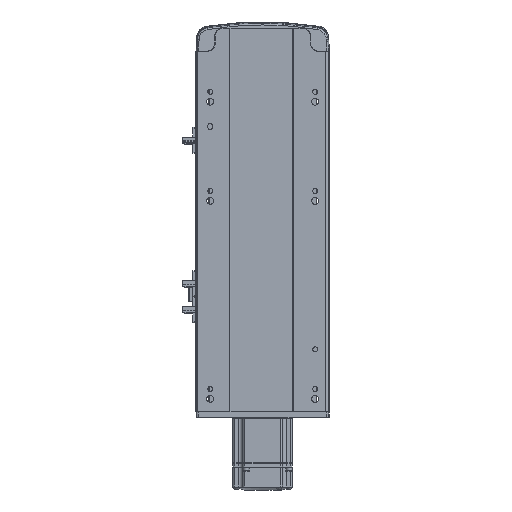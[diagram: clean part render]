
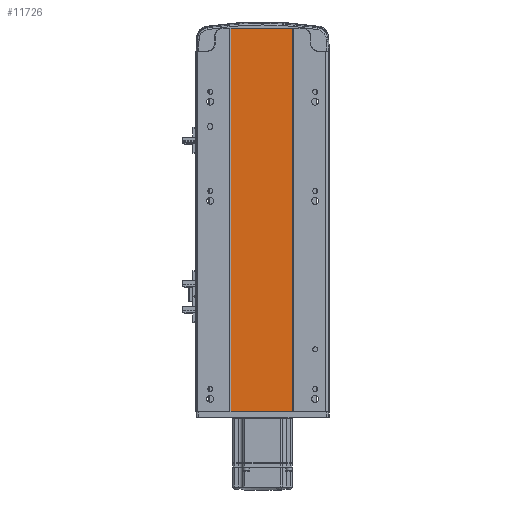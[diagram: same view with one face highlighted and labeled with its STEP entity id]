
A CAD part, front view. The second image highlights one B-rep face of the part: STEP entity #11726.
In plain terms, the highlighted planar face has unit normal (0, -1, 0).
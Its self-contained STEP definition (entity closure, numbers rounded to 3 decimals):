
#3853 = CARTESIAN_POINT ( 'NONE',  ( 30., 1., 387. ) ) ;
#3859 = DIRECTION ( 'NONE',  ( -1., 0., 0. ) ) ;
#8693 = EDGE_CURVE ( 'NONE', #31077, #46611, #42215, .T. ) ;
#11726 = ADVANCED_FACE ( 'NONE', ( #51424 ), #30044, .F. ) ;
#12331 = CARTESIAN_POINT ( 'NONE',  ( -32., 1., 387. ) ) ;
#14925 = EDGE_CURVE ( 'NONE', #31077, #52204, #41495, .T. ) ;
#15245 = EDGE_CURVE ( 'NONE', #52204, #28052, #53642, .T. ) ;
#15582 = ORIENTED_EDGE ( 'NONE', *, *, #15245, .F. ) ;
#15996 = LINE ( 'NONE', #25999, #52164 ) ;
#16828 = DIRECTION ( 'NONE',  ( 1., 0., 0. ) ) ;
#19050 = DIRECTION ( 'NONE',  ( 1., 0., 0. ) ) ;
#23657 = CARTESIAN_POINT ( 'NONE',  ( -32., 1., 387. ) ) ;
#25999 = CARTESIAN_POINT ( 'NONE',  ( -32., 1., 0. ) ) ;
#27342 = ORIENTED_EDGE ( 'NONE', *, *, #8693, .T. ) ;
#27394 = DIRECTION ( 'NONE',  ( 0., 0., -1. ) ) ;
#28052 = VERTEX_POINT ( 'NONE', #38584 ) ;
#29912 = VECTOR ( 'NONE', #19050, 1000. ) ;
#30044 = PLANE ( 'NONE',  #39346 ) ;
#30626 = VECTOR ( 'NONE', #27394, 1000. ) ;
#31077 = VERTEX_POINT ( 'NONE', #12331 ) ;
#34749 = CARTESIAN_POINT ( 'NONE',  ( 30., 1., 387. ) ) ;
#36815 = ORIENTED_EDGE ( 'NONE', *, *, #55104, .T. ) ;
#37872 = EDGE_LOOP ( 'NONE', ( #36815, #15582, #38072, #27342 ) ) ;
#38072 = ORIENTED_EDGE ( 'NONE', *, *, #14925, .F. ) ;
#38584 = CARTESIAN_POINT ( 'NONE',  ( 30., 1., 0. ) ) ;
#38632 = DIRECTION ( 'NONE',  ( 0., 1., 0. ) ) ;
#39346 = AXIS2_PLACEMENT_3D ( 'NONE', #51718, #38632, #3859 ) ;
#41495 = LINE ( 'NONE', #23657, #29912 ) ;
#42215 = LINE ( 'NONE', #49093, #30626 ) ;
#43643 = DIRECTION ( 'NONE',  ( 0., 0., -1. ) ) ;
#46611 = VERTEX_POINT ( 'NONE', #47013 ) ;
#47013 = CARTESIAN_POINT ( 'NONE',  ( -32., 1., 0. ) ) ;
#49093 = CARTESIAN_POINT ( 'NONE',  ( -32., 1., 387. ) ) ;
#51424 = FACE_OUTER_BOUND ( 'NONE', #37872, .T. ) ;
#51619 = VECTOR ( 'NONE', #43643, 1000. ) ;
#51718 = CARTESIAN_POINT ( 'NONE',  ( -32., 1., 387. ) ) ;
#52164 = VECTOR ( 'NONE', #16828, 1000. ) ;
#52204 = VERTEX_POINT ( 'NONE', #3853 ) ;
#53642 = LINE ( 'NONE', #34749, #51619 ) ;
#55104 = EDGE_CURVE ( 'NONE', #46611, #28052, #15996, .T. ) ;
